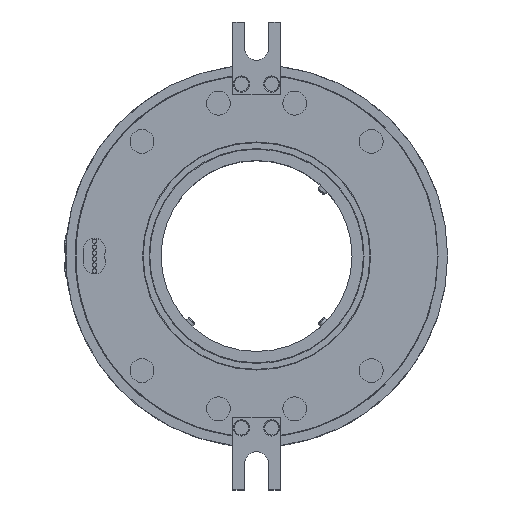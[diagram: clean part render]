
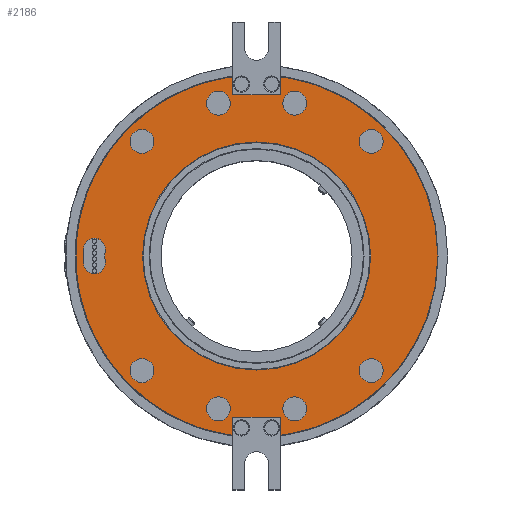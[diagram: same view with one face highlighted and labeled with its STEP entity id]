
A CAD part, top view. The second image highlights one B-rep face of the part: STEP entity #2186.
In plain terms, the highlighted planar face has unit normal (0, 0, 1).
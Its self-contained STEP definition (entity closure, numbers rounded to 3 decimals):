
#176=FACE_BOUND('',#3942,.T.);
#177=FACE_BOUND('',#3943,.T.);
#178=FACE_BOUND('',#3944,.T.);
#179=FACE_BOUND('',#3945,.T.);
#180=FACE_BOUND('',#3946,.T.);
#181=FACE_BOUND('',#3947,.T.);
#182=FACE_BOUND('',#3948,.T.);
#183=FACE_BOUND('',#3949,.T.);
#184=FACE_BOUND('',#3950,.T.);
#185=FACE_BOUND('',#3951,.T.);
#186=FACE_BOUND('',#3952,.T.);
#990=LINE('',#25338,#1508);
#991=LINE('',#25341,#1509);
#992=LINE('',#25343,#1510);
#993=LINE('',#25347,#1511);
#994=LINE('',#25349,#1512);
#995=LINE('',#25351,#1513);
#1508=VECTOR('',#15121,1.);
#1509=VECTOR('',#15122,1.);
#1510=VECTOR('',#15123,1.);
#1511=VECTOR('',#15126,1.);
#1512=VECTOR('',#15127,1.);
#1513=VECTOR('',#15128,1.);
#2186=ADVANCED_FACE('',(#176,#177,#178,#179,#180,#181,#182,#183,#184,#185,
#186),#2711,.T.);
#2711=PLANE('',#13678);
#3942=EDGE_LOOP('',(#6444,#6445,#6446,#6447,#6448,#6449,#6450,#6451));
#3943=EDGE_LOOP('',(#6452));
#3944=EDGE_LOOP('',(#6453));
#3945=EDGE_LOOP('',(#6454));
#3946=EDGE_LOOP('',(#6455));
#3947=EDGE_LOOP('',(#6456));
#3948=EDGE_LOOP('',(#6457,#6458,#6459,#6460));
#3949=EDGE_LOOP('',(#6461));
#3950=EDGE_LOOP('',(#6462));
#3951=EDGE_LOOP('',(#6463));
#3952=EDGE_LOOP('',(#6464));
#4483=CIRCLE('',#13663,75.9);
#4484=CIRCLE('',#13664,75.9);
#4485=CIRCLE('',#13665,47.75);
#4486=CIRCLE('',#13666,5.);
#4487=CIRCLE('',#13667,5.);
#4488=CIRCLE('',#13668,5.);
#4489=CIRCLE('',#13669,5.);
#4490=CIRCLE('',#13670,63.5);
#4491=CIRCLE('',#13671,4.5);
#4492=CIRCLE('',#13672,72.5);
#4493=CIRCLE('',#13673,4.5);
#4494=CIRCLE('',#13674,5.);
#4495=CIRCLE('',#13675,5.);
#4496=CIRCLE('',#13676,5.);
#4497=CIRCLE('',#13677,5.);
#6444=ORIENTED_EDGE('',*,*,#11110,.F.);
#6445=ORIENTED_EDGE('',*,*,#11111,.F.);
#6446=ORIENTED_EDGE('',*,*,#11112,.F.);
#6447=ORIENTED_EDGE('',*,*,#11113,.F.);
#6448=ORIENTED_EDGE('',*,*,#11114,.F.);
#6449=ORIENTED_EDGE('',*,*,#11115,.F.);
#6450=ORIENTED_EDGE('',*,*,#11116,.F.);
#6451=ORIENTED_EDGE('',*,*,#11117,.F.);
#6452=ORIENTED_EDGE('',*,*,#11118,.F.);
#6453=ORIENTED_EDGE('',*,*,#11119,.T.);
#6454=ORIENTED_EDGE('',*,*,#11120,.T.);
#6455=ORIENTED_EDGE('',*,*,#11121,.T.);
#6456=ORIENTED_EDGE('',*,*,#11122,.T.);
#6457=ORIENTED_EDGE('',*,*,#11123,.F.);
#6458=ORIENTED_EDGE('',*,*,#11124,.T.);
#6459=ORIENTED_EDGE('',*,*,#11125,.T.);
#6460=ORIENTED_EDGE('',*,*,#11126,.T.);
#6461=ORIENTED_EDGE('',*,*,#11127,.T.);
#6462=ORIENTED_EDGE('',*,*,#11128,.T.);
#6463=ORIENTED_EDGE('',*,*,#11129,.T.);
#6464=ORIENTED_EDGE('',*,*,#11130,.T.);
#9350=VERTEX_POINT('',#25339);
#9351=VERTEX_POINT('',#25340);
#9352=VERTEX_POINT('',#25342);
#9353=VERTEX_POINT('',#25344);
#9354=VERTEX_POINT('',#25346);
#9355=VERTEX_POINT('',#25348);
#9356=VERTEX_POINT('',#25350);
#9357=VERTEX_POINT('',#25352);
#9358=VERTEX_POINT('',#25355);
#9359=VERTEX_POINT('',#25357);
#9360=VERTEX_POINT('',#25359);
#9361=VERTEX_POINT('',#25361);
#9362=VERTEX_POINT('',#25363);
#9363=VERTEX_POINT('',#25365);
#9364=VERTEX_POINT('',#25366);
#9365=VERTEX_POINT('',#25368);
#9366=VERTEX_POINT('',#25370);
#9367=VERTEX_POINT('',#25373);
#9368=VERTEX_POINT('',#25375);
#9369=VERTEX_POINT('',#25377);
#9370=VERTEX_POINT('',#25379);
#11110=EDGE_CURVE('',#9350,#9351,#990,.T.);
#11111=EDGE_CURVE('',#9352,#9350,#991,.T.);
#11112=EDGE_CURVE('',#9353,#9352,#992,.T.);
#11113=EDGE_CURVE('',#9354,#9353,#4483,.T.);
#11114=EDGE_CURVE('',#9355,#9354,#993,.T.);
#11115=EDGE_CURVE('',#9356,#9355,#994,.T.);
#11116=EDGE_CURVE('',#9357,#9356,#995,.T.);
#11117=EDGE_CURVE('',#9351,#9357,#4484,.T.);
#11118=EDGE_CURVE('',#9358,#9358,#4485,.T.);
#11119=EDGE_CURVE('',#9359,#9359,#4486,.T.);
#11120=EDGE_CURVE('',#9360,#9360,#4487,.T.);
#11121=EDGE_CURVE('',#9361,#9361,#4488,.T.);
#11122=EDGE_CURVE('',#9362,#9362,#4489,.T.);
#11123=EDGE_CURVE('',#9363,#9364,#4490,.T.);
#11124=EDGE_CURVE('',#9363,#9365,#4491,.T.);
#11125=EDGE_CURVE('',#9365,#9366,#4492,.T.);
#11126=EDGE_CURVE('',#9366,#9364,#4493,.T.);
#11127=EDGE_CURVE('',#9367,#9367,#4494,.T.);
#11128=EDGE_CURVE('',#9368,#9368,#4495,.T.);
#11129=EDGE_CURVE('',#9369,#9369,#4496,.T.);
#11130=EDGE_CURVE('',#9370,#9370,#4497,.T.);
#13663=AXIS2_PLACEMENT_3D('',#25345,#15124,#15125);
#13664=AXIS2_PLACEMENT_3D('',#25353,#15129,#15130);
#13665=AXIS2_PLACEMENT_3D('',#25354,#15131,#15132);
#13666=AXIS2_PLACEMENT_3D('',#25356,#15133,#15134);
#13667=AXIS2_PLACEMENT_3D('',#25358,#15135,#15136);
#13668=AXIS2_PLACEMENT_3D('',#25360,#15137,#15138);
#13669=AXIS2_PLACEMENT_3D('',#25362,#15139,#15140);
#13670=AXIS2_PLACEMENT_3D('',#25364,#15141,#15142);
#13671=AXIS2_PLACEMENT_3D('',#25367,#15143,#15144);
#13672=AXIS2_PLACEMENT_3D('',#25369,#15145,#15146);
#13673=AXIS2_PLACEMENT_3D('',#25371,#15147,#15148);
#13674=AXIS2_PLACEMENT_3D('',#25372,#15149,#15150);
#13675=AXIS2_PLACEMENT_3D('',#25374,#15151,#15152);
#13676=AXIS2_PLACEMENT_3D('',#25376,#15153,#15154);
#13677=AXIS2_PLACEMENT_3D('',#25378,#15155,#15156);
#13678=AXIS2_PLACEMENT_3D('',#25380,#15157,#15158);
#15121=DIRECTION('',(0.,1.,0.));
#15122=DIRECTION('',(1.,0.,0.));
#15123=DIRECTION('',(0.,-1.,0.));
#15124=DIRECTION('',(0.,0.,-1.));
#15125=DIRECTION('',(1.,0.,0.));
#15126=DIRECTION('',(0.,-1.,0.));
#15127=DIRECTION('',(-1.,0.,0.));
#15128=DIRECTION('',(0.,1.,0.));
#15129=DIRECTION('',(0.,0.,-1.));
#15130=DIRECTION('',(1.,0.,0.));
#15131=DIRECTION('',(0.,0.,1.));
#15132=DIRECTION('',(1.,0.,0.));
#15133=DIRECTION('',(0.,0.,-1.));
#15134=DIRECTION('',(1.,0.,0.));
#15135=DIRECTION('',(0.,0.,-1.));
#15136=DIRECTION('',(1.,0.,0.));
#15137=DIRECTION('',(0.,0.,-1.));
#15138=DIRECTION('',(1.,0.,0.));
#15139=DIRECTION('',(0.,0.,-1.));
#15140=DIRECTION('',(1.,0.,0.));
#15141=DIRECTION('',(0.,0.,-1.));
#15142=DIRECTION('',(1.,0.,0.));
#15143=DIRECTION('',(0.,0.,-1.));
#15144=DIRECTION('',(0.999,0.044,0.));
#15145=DIRECTION('',(0.,0.,-1.));
#15146=DIRECTION('',(1.,0.,0.));
#15147=DIRECTION('',(0.,0.,-1.));
#15148=DIRECTION('',(0.999,-0.044,0.));
#15149=DIRECTION('',(0.,0.,-1.));
#15150=DIRECTION('',(1.,0.,0.));
#15151=DIRECTION('',(0.,0.,-1.));
#15152=DIRECTION('',(1.,0.,0.));
#15153=DIRECTION('',(0.,0.,-1.));
#15154=DIRECTION('',(1.,0.,0.));
#15155=DIRECTION('',(0.,0.,-1.));
#15156=DIRECTION('',(1.,0.,0.));
#15157=DIRECTION('',(0.,0.,1.));
#15158=DIRECTION('',(1.,0.,0.));
#25338=CARTESIAN_POINT('',(10.,82.75,67.5));
#25339=CARTESIAN_POINT('',(10.,67.5,67.5));
#25340=CARTESIAN_POINT('',(10.,75.238,67.5));
#25341=CARTESIAN_POINT('',(0.,67.5,67.5));
#25342=CARTESIAN_POINT('',(-10.,67.5,67.5));
#25343=CARTESIAN_POINT('',(-10.,82.75,67.5));
#25344=CARTESIAN_POINT('',(-10.,75.238,67.5));
#25345=CARTESIAN_POINT('',(0.,0.,67.5));
#25346=CARTESIAN_POINT('',(-10.,-75.238,67.5));
#25347=CARTESIAN_POINT('',(-10.,-82.75,67.5));
#25348=CARTESIAN_POINT('',(-10.,-67.5,67.5));
#25349=CARTESIAN_POINT('',(0.,-67.5,67.5));
#25350=CARTESIAN_POINT('',(10.,-67.5,67.5));
#25351=CARTESIAN_POINT('',(10.,-82.75,67.5));
#25352=CARTESIAN_POINT('',(10.,-75.238,67.5));
#25353=CARTESIAN_POINT('',(0.,0.,67.5));
#25354=CARTESIAN_POINT('',(0.,0.,67.5));
#25355=CARTESIAN_POINT('',(47.75,0.,67.5));
#25356=CARTESIAN_POINT('',(-48.,-48.,67.5));
#25357=CARTESIAN_POINT('',(-43.,-48.,67.5));
#25358=CARTESIAN_POINT('',(48.,48.,67.5));
#25359=CARTESIAN_POINT('',(53.,48.,67.5));
#25360=CARTESIAN_POINT('',(-16.,64.,67.5));
#25361=CARTESIAN_POINT('',(-11.,64.,67.5));
#25362=CARTESIAN_POINT('',(16.,-64.,67.5));
#25363=CARTESIAN_POINT('',(21.,-64.,67.5));
#25364=CARTESIAN_POINT('',(0.,0.,67.5));
#25365=CARTESIAN_POINT('',(-63.44,-2.77,67.5));
#25366=CARTESIAN_POINT('',(-63.44,2.77,67.5));
#25367=CARTESIAN_POINT('',(-67.935,-2.966,67.5));
#25368=CARTESIAN_POINT('',(-72.431,-3.162,67.5));
#25369=CARTESIAN_POINT('',(0.,0.,67.5));
#25370=CARTESIAN_POINT('',(-72.431,3.162,67.5));
#25371=CARTESIAN_POINT('',(-67.935,2.966,67.5));
#25372=CARTESIAN_POINT('',(-48.,48.,67.5));
#25373=CARTESIAN_POINT('',(-43.,48.,67.5));
#25374=CARTESIAN_POINT('',(16.,64.,67.5));
#25375=CARTESIAN_POINT('',(21.,64.,67.5));
#25376=CARTESIAN_POINT('',(48.,-48.,67.5));
#25377=CARTESIAN_POINT('',(53.,-48.,67.5));
#25378=CARTESIAN_POINT('',(-16.,-64.,67.5));
#25379=CARTESIAN_POINT('',(-11.,-64.,67.5));
#25380=CARTESIAN_POINT('',(0.,0.,67.5));
